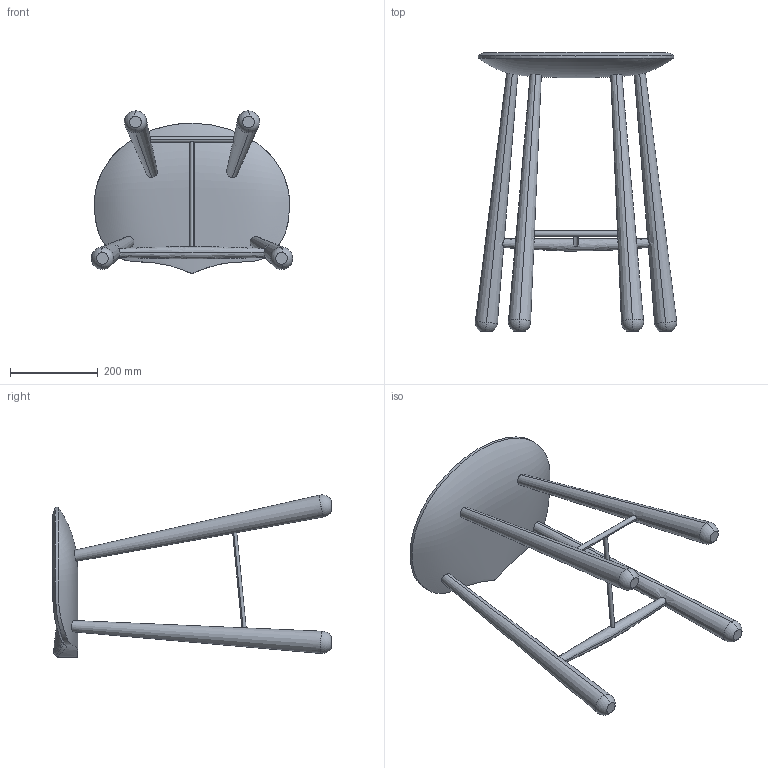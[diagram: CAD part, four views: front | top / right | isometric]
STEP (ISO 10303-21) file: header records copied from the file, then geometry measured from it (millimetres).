
FILE_DESCRIPTION (( 'STEP AP214' ), '1' );
FILE_NAME ('Counter Stool_KZ_STP.STEP', '2021-04-09T19:13:57', ( '' ), ( '' ), 'SwSTEP 2.0', 'SolidWorks 2021', '' );
FILE_SCHEMA (( 'AUTOMOTIVE_DESIGN' ));
Length unit declared in the file: millimetre
Products named in the file (1): Counter Stool_KZ_STP
Bounding box: 458.46 x 635.03 x 369.53 mm (x, y, z)
Volume: 6298182.4 mm3; surface area: 599132.6 mm2
Topology: 1 solids, 1 shells, 87 faces, 246 edges, 165 vertices
Faces by surface type: plane 32, bspline 22, cylinder 17, cone 8, sphere 8
Entity records: 14599 total; most frequent: CARTESIAN_POINT 11920, ORIENTED_EDGE 452, DIRECTION 285, EDGE_CURVE 226, VERTEX_POINT 153, B_SPLINE_CURVE_WITH_KNOTS 106, EDGE_LOOP 105, AXIS2_PLACEMENT_3D 102
